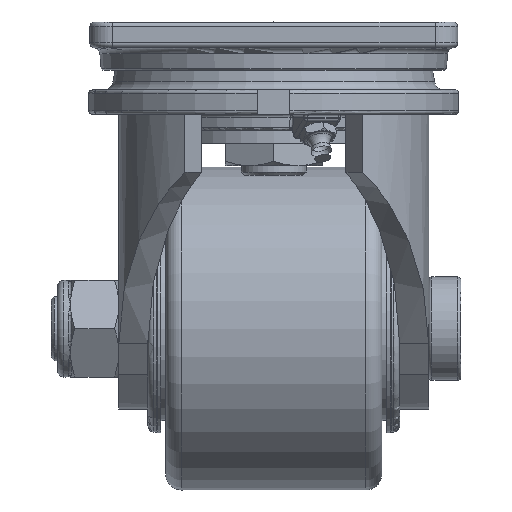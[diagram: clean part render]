
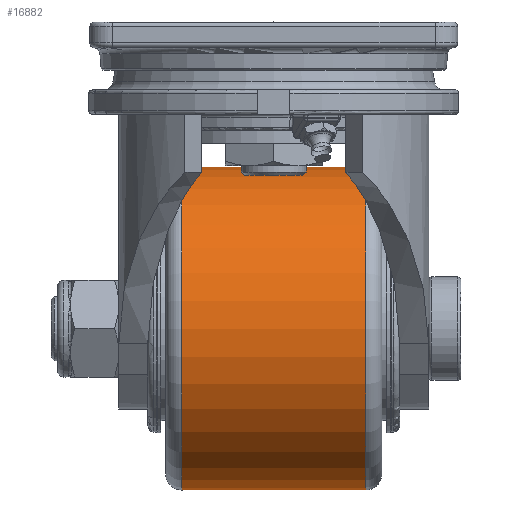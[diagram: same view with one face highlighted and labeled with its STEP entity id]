
A CAD part, left-side view. The second image highlights one B-rep face of the part: STEP entity #16882.
In plain terms, the highlighted cylindrical face has radius 50 mm (diameter 100 mm), a full revolution.
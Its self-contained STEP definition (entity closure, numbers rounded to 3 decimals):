
#1871=LINE('',#22943,#3191);
#3191=VECTOR('',#19235,50.);
#4451=CYLINDRICAL_SURFACE('',#17971,50.);
#4594=FACE_OUTER_BOUND('',#5612,.T.);
#5612=EDGE_LOOP('',(#11721,#11722,#11723,#11724,#11725,#11726));
#6714=CIRCLE('',#17967,50.);
#6715=CIRCLE('',#17968,50.);
#6718=CIRCLE('',#17972,50.);
#6719=CIRCLE('',#17973,50.);
#7220=VERTEX_POINT('',#22931);
#7221=VERTEX_POINT('',#22932);
#7223=VERTEX_POINT('',#22939);
#7224=VERTEX_POINT('',#22940);
#8970=EDGE_CURVE('',#7220,#7221,#6714,.T.);
#8971=EDGE_CURVE('',#7221,#7220,#6715,.T.);
#8974=EDGE_CURVE('',#7223,#7224,#6718,.T.);
#8975=EDGE_CURVE('',#7224,#7223,#6719,.T.);
#8976=EDGE_CURVE('',#7224,#7220,#1871,.T.);
#11721=ORIENTED_EDGE('',*,*,#8974,.F.);
#11722=ORIENTED_EDGE('',*,*,#8975,.F.);
#11723=ORIENTED_EDGE('',*,*,#8976,.T.);
#11724=ORIENTED_EDGE('',*,*,#8970,.T.);
#11725=ORIENTED_EDGE('',*,*,#8971,.T.);
#11726=ORIENTED_EDGE('',*,*,#8976,.F.);
#16882=ADVANCED_FACE('',(#4594),#4451,.T.);
#17967=AXIS2_PLACEMENT_3D('',#22933,#19221,#19222);
#17968=AXIS2_PLACEMENT_3D('',#22934,#19223,#19224);
#17971=AXIS2_PLACEMENT_3D('',#22938,#19229,#19230);
#17972=AXIS2_PLACEMENT_3D('',#22941,#19231,#19232);
#17973=AXIS2_PLACEMENT_3D('',#22942,#19233,#19234);
#19221=DIRECTION('center_axis',(0.,-1.,0.));
#19222=DIRECTION('ref_axis',(1.,0.,0.));
#19223=DIRECTION('center_axis',(0.,-1.,0.));
#19224=DIRECTION('ref_axis',(1.,0.,0.));
#19229=DIRECTION('center_axis',(0.,-1.,0.));
#19230=DIRECTION('ref_axis',(0.,0.,
1.));
#19231=DIRECTION('center_axis',(0.,-1.,0.));
#19232=DIRECTION('ref_axis',(1.,0.,0.));
#19233=DIRECTION('center_axis',(0.,-1.,0.));
#19234=DIRECTION('ref_axis',(1.,0.,0.));
#19235=DIRECTION('',(0.,1.,0.));
#22931=CARTESIAN_POINT('',(37.134,28.5,-115.));
#22932=CARTESIAN_POINT('',(37.134,28.5,-15.));
#22933=CARTESIAN_POINT('Origin',(37.134,28.5,-65.));
#22934=CARTESIAN_POINT('Origin',(37.134,28.5,-65.));
#22938=CARTESIAN_POINT('Origin',(37.134,0.,-65.));
#22939=CARTESIAN_POINT('',(37.134,-28.5,-15.));
#22940=CARTESIAN_POINT('',(37.134,-28.5,-115.));
#22941=CARTESIAN_POINT('Origin',(37.134,-28.5,-65.));
#22942=CARTESIAN_POINT('Origin',(37.134,-28.5,-65.));
#22943=CARTESIAN_POINT('',(37.134,0.,-115.));
